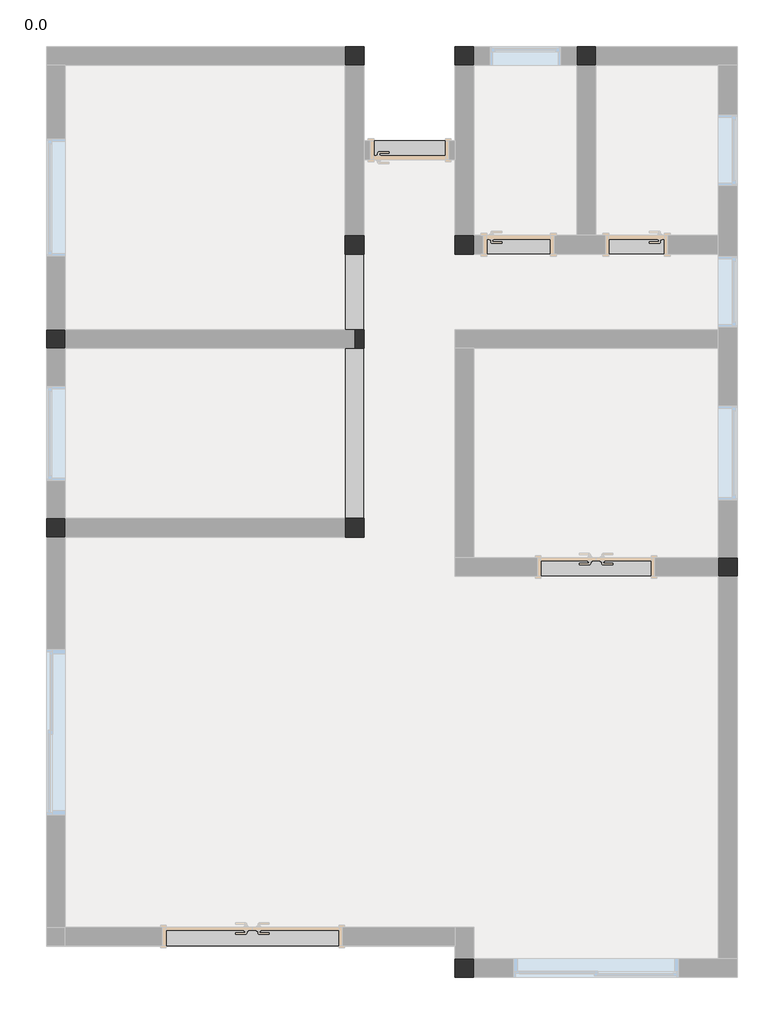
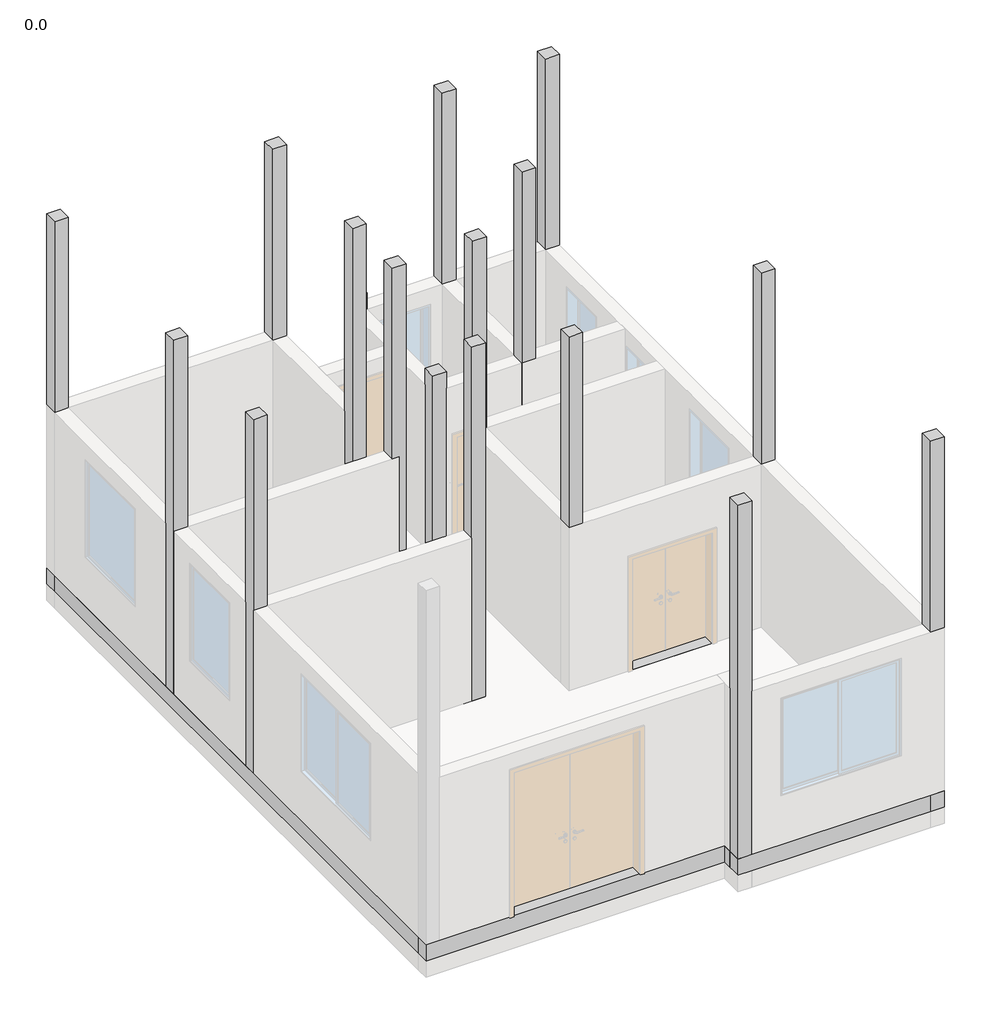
# One storey, part 2 of 2: 20 beams, 20 columns.
"""IFC4 building model written with IfcOpenShell, lengths in millimetres."""

from ifc_helpers import new_model, si_unit, origin, origin_with_axes, place, context, project, spatial, polyline, outline, extrude, faceted_brep, element, save

model = new_model("IFC4")

# Units and contexts
model_context = context("Model", 3, world=origin())
ifc_project = project(units=[si_unit("LENGTHUNIT", "METRE", prefix="MILLI")], contexts=[model_context])

# Site, building, storey
site = spatial("IfcSite", under=ifc_project)
building = spatial("IfcBuilding", under=site)
storey = spatial("IfcBuildingStorey", under=building, Name="0.0", Elevation=0.0)

# Beams
placement = place(None, origin())
element("IfcBeam", 1, ObjectType="混凝土 - 矩形梁 : DQL  240X300", at=placement, inside=storey, context=model_context, shape_type="Brep", body=[
    faceted_brep([(-13258.0662967, 1425.6780218, 0.0), (-13258.0662967, 1665.6780218, 0.0), (-13498.0662967, 1665.6780218, 0.0), (-17058.0662967, 1665.6780218, 0.0), (-17298.0662967, 1665.6780218, 0.0), (-17298.0662967, 1425.6780218, 0.0), (-17058.0662967, 1425.6780218, 0.0), (-13498.0662967, 1425.6780218, 0.0), (-13258.0662967, 1425.6780218, -300.0), (-17298.0662967, 1425.6780218, -300.0), (-17058.0662967, 1425.6780218, -300.0), (-13498.0662967, 1425.6780218, -300.0), (-13258.0662967, 1665.6780218, -300.0), (-17298.0662967, 1665.6780218, -300.0)], [[[0, 1, 2, 3, 4, 5, 6, 7]], [[8, 0, 7, 6, 5, 9, 10, 11]], [[12, 8, 11, 10, 9, 13]], [[1, 12, 13, 4, 3, 2]], [[1, 0, 8, 12]], [[5, 4, 13, 9]]]),
])
element("IfcBeam", 2, ObjectType="混凝土 - 矩形梁 : DQL  240X300", at=placement, inside=storey, context=model_context, shape_type="Brep", body=[
    faceted_brep([(-13498.0662967, 225.6780218, 0.0), (-13258.0662967, 225.6780218, 0.0), (-13258.0662967, 465.6780218, 0.0), (-13258.0662967, 1425.6780218, 0.0), (-13498.0662967, 1425.6780218, 0.0), (-13498.0662967, 225.6780218, -300.0), (-13498.0662967, 1425.6780218, -100.0), (-13498.0662967, 1425.6780218, -300.0), (-13258.0662967, 225.6780218, -300.0), (-13258.0662967, 1425.6780218, -300.0), (-13258.0662967, 465.6780218, -300.0)], [[[0, 1, 2, 3, 4]], [[5, 0, 4, 6, 7]], [[8, 5, 7, 9, 10]], [[1, 8, 10, 9, 3, 2]], [[4, 3, 9, 7, 6]], [[1, 0, 5, 8]]]),
])
element("IfcBeam", 3, ObjectType="混凝土 - 矩形梁 : DQL  240X300", at=placement, inside=storey, context=model_context, shape_type="Brep", body=[
    faceted_brep([(-11858.0662967, 225.6780218, 0.0), (-11858.0662967, 465.6780218, 0.0), (-12098.0662967, 465.6780218, 0.0), (-13258.0662967, 465.6780218, 0.0), (-13258.0662967, 225.6780218, 0.0), (-12098.0662967, 225.6780218, 0.0), (-11858.0662967, 225.6780218, -300.0), (-13258.0662967, 225.6780218, -100.0), (-13258.0662967, 225.6780218, -300.0), (-12098.0662967, 225.6780218, -300.0), (-11858.0662967, 465.6780218, -300.0), (-13258.0662967, 465.6780218, -300.0), (-12098.0662967, 465.6780218, -300.0)], [[[0, 1, 2, 3, 4, 5]], [[6, 0, 5, 4, 7, 8, 9]], [[10, 6, 9, 8, 11, 12]], [[1, 10, 12, 11, 3, 2]], [[4, 3, 11, 8, 7]], [[1, 0, 6, 10]]]),
])
element("IfcBeam", 4, ObjectType="混凝土 - 矩形梁 : DQL  240X300", at=placement, inside=storey, context=model_context, shape_type="Brep", body=[
    faceted_brep([(-11858.0662967, 1665.6780218, 0.0), (-12098.0662967, 1665.6780218, 0.0), (-12098.0662967, 1425.6780218, 0.0), (-12098.0662967, 465.6780218, 0.0), (-11858.0662967, 465.6780218, 0.0), (-11858.0662967, 1425.6780218, 0.0), (-11858.0662967, 1665.6780218, -300.0), (-11858.0662967, 465.6780218, -300.0), (-11858.0662967, 1425.6780218, -300.0), (-12098.0662967, 1665.6780218, -300.0), (-12098.0662967, 465.6780218, -300.0)], [[[0, 1, 2, 3, 4, 5]], [[6, 0, 5, 4, 7, 8]], [[9, 6, 8, 7, 10]], [[1, 9, 10, 3, 2]], [[4, 3, 10, 7]], [[1, 0, 6, 9]]]),
])
element("IfcBeam", 5, ObjectType="混凝土 - 矩形梁 : DQL  240X300", at=placement, inside=storey, context=model_context, shape_type="Brep", body=[
    faceted_brep([(-8508.0662967, 1425.6780218, 0.0), (-8508.0662967, 1665.6780218, 0.0), (-8748.0662967, 1665.6780218, 0.0), (-10308.0662967, 1665.6780218, 0.0), (-10548.0662967, 1665.6780218, 0.0), (-11858.0662967, 1665.6780218, 0.0), (-11858.0662967, 1425.6780218, 0.0), (-10548.0662967, 1425.6780218, 0.0), (-10308.0662967, 1425.6780218, 0.0), (-8748.0662967, 1425.6780218, 0.0), (-8508.0662967, 1425.6780218, -300.0), (-11858.0662967, 1425.6780218, -30.0), (-11858.0662967, 1425.6780218, -130.0), (-11858.0662967, 1425.6780218, -300.0), (-10548.0662967, 1425.6780218, -300.0), (-10308.0662967, 1425.6780218, -300.0), (-8748.0662967, 1425.6780218, -300.0), (-8508.0662967, 1665.6780218, -300.0), (-11858.0662967, 1665.6780218, -300.0)], [[[0, 1, 2, 3, 4, 5, 6, 7, 8, 9]], [[10, 0, 9, 8, 7, 6, 11, 12, 13, 14, 15, 16]], [[17, 10, 16, 15, 14, 13, 18]], [[1, 17, 18, 5, 4, 3, 2]], [[6, 5, 18, 13, 12, 11]], [[1, 0, 10, 17]]]),
])
element("IfcBeam", 6, ObjectType="混凝土 - 矩形梁 : DQL  240X300", at=placement, inside=storey, context=model_context, shape_type="Brep", body=[
    faceted_brep([(-8748.0662967, -10174.3219782, 0.0), (-8508.0662967, -10174.3219782, 0.0), (-8508.0662967, -9934.3219782, 0.0), (-8508.0662967, -5074.3219782, 0.0), (-8508.0662967, -4834.3219782, 0.0), (-8508.0662967, 1425.6780218, 0.0), (-8748.0662967, 1425.6780218, 0.0), (-8748.0662967, -734.3219782, 0.0), (-8748.0662967, -974.3219782, 0.0), (-8748.0662967, -1934.3219782, 0.0), (-8748.0662967, -2174.3219782, 0.0), (-8748.0662967, -4834.3219782, 0.0), (-8748.0662967, -5074.3219782, 0.0), (-8748.0662967, -9934.3219782, 0.0), (-8748.0662967, -10174.3219782, -300.0), (-8748.0662967, 1425.6780218, -30.0), (-8748.0662967, 1425.6780218, -130.0), (-8748.0662967, 1425.6780218, -300.0), (-8748.0662967, -734.3219782, -300.0), (-8748.0662967, -974.3219782, -300.0), (-8748.0662967, -1934.3219782, -300.0), (-8748.0662967, -2174.3219782, -300.0), (-8748.0662967, -4834.3219782, -300.0), (-8748.0662967, -5074.3219782, -300.0), (-8748.0662967, -9934.3219782, -300.0), (-8508.0662967, -10174.3219782, -300.0), (-8508.0662967, 1425.6780218, -300.0)], [[[0, 1, 2, 3, 4, 5, 6, 7, 8, 9, 10, 11, 12, 13]], [[14, 0, 13, 12, 11, 10, 9, 8, 7, 6, 15, 16, 17, 18, 19, 20, 21, 22, 23, 24]], [[25, 14, 24, 23, 22, 21, 20, 19, 18, 17, 26]], [[1, 25, 26, 5, 4, 3, 2]], [[6, 5, 26, 17, 16, 15]], [[1, 0, 14, 25]]]),
])
element("IfcBeam", 7, ObjectType="混凝土 - 矩形梁 : DQL  240X300", at=placement, inside=storey, context=model_context, shape_type="Brep", body=[
    faceted_brep([(-12098.0662967, -9934.3219782, 0.0), (-12098.0662967, -10174.3219782, 0.0), (-11858.0662967, -10174.3219782, 0.0), (-8748.0662967, -10174.3219782, 0.0), (-8748.0662967, -9934.3219782, 0.0), (-11858.0662967, -9934.3219782, 0.0), (-12098.0662967, -9934.3219782, -300.0), (-8748.0662967, -9934.3219782, -100.0), (-8748.0662967, -9934.3219782, -300.0), (-11858.0662967, -9934.3219782, -300.0), (-12098.0662967, -10174.3219782, -300.0), (-8748.0662967, -10174.3219782, -300.0)], [[[0, 1, 2, 3, 4, 5]], [[6, 0, 5, 4, 7, 8, 9]], [[10, 6, 9, 8, 11]], [[1, 10, 11, 3, 2]], [[4, 3, 11, 8, 7]], [[1, 0, 6, 10]]]),
])
element("IfcBeam", 8, ObjectType="混凝土 - 矩形梁 : DQL  240X300", at=placement, inside=storey, context=model_context, shape_type="Brep", body=[
    faceted_brep([(-12098.0662967, -9934.3219782, 0.0), (-11858.0662967, -9934.3219782, 0.0), (-11858.0662967, -9534.3219782, 0.0), (-12098.0662967, -9534.3219782, 0.0), (-12098.0662967, -9774.3219782, 0.0), (-11858.0662967, -9934.3219782, -100.0), (-11858.0662967, -9934.3219782, -300.0), (-11858.0662967, -9534.3219782, -300.0), (-11858.0662967, -9534.3219782, -100.0), (-12098.0662967, -9934.3219782, -300.0), (-12098.0662967, -9774.3219782, -300.0), (-12098.0662967, -9534.3219782, -300.0), (-12098.0662967, -9534.3219782, -100.0)], [[[0, 1, 2, 3, 4]], [[2, 1, 5, 6, 7, 8]], [[6, 9, 10, 11, 7]], [[9, 0, 4, 3, 12, 11, 10]], [[1, 0, 9, 6, 5]], [[3, 2, 8, 7, 11, 12]]]),
])
element("IfcBeam", 9, ObjectType="混凝土 - 矩形梁 : DQL  240X300", at=placement, inside=storey, context=model_context, shape_type="Brep", body=[
    faceted_brep([(-12098.0662967, -9774.3219782, 0.0), (-12098.0662967, -9534.3219782, 0.0), (-17058.0662967, -9534.3219782, 0.0), (-17298.0662967, -9534.3219782, 0.0), (-17298.0662967, -9774.3219782, 0.0), (-17058.0662967, -9774.3219782, 0.0), (-17298.0662967, -9534.3219782, -300.0), (-12098.0662967, -9534.3219782, -100.0), (-12098.0662967, -9534.3219782, -300.0), (-17058.0662967, -9534.3219782, -300.0), (-12098.0662967, -9774.3219782, -300.0), (-17298.0662967, -9774.3219782, -300.0)], [[[0, 1, 2, 3, 4, 5]], [[6, 3, 2, 1, 7, 8, 9]], [[8, 10, 11, 6, 9]], [[10, 0, 5, 4, 11]], [[1, 0, 10, 8, 7]], [[4, 3, 6, 11]]]),
])
element("IfcBeam", 10, ObjectType="混凝土 - 矩形梁 : DQL  240X300", at=placement, inside=storey, context=model_context, shape_type="Brep", body=[
    faceted_brep([(-17298.0662967, -9534.3219782, 0.0), (-17058.0662967, -9534.3219782, 0.0), (-17058.0662967, -4574.3219782, 0.0), (-17058.0662967, -4334.3219782, 0.0), (-17058.0662967, -2174.3219782, 0.0), (-17058.0662967, -1934.3219782, 0.0), (-17058.0662967, 1425.6780218, 0.0), (-17298.0662967, 1425.6780218, 0.0), (-17298.0662967, -1934.3219782, 0.0), (-17298.0662967, -2174.3219782, 0.0), (-17298.0662967, -4334.3219782, 0.0), (-17298.0662967, -4574.3219782, 0.0), (-17058.0662967, -9534.3219782, -100.0), (-17058.0662967, -9534.3219782, -300.0), (-17058.0662967, -4574.3219782, -300.0), (-17058.0662967, -4334.3219782, -300.0), (-17058.0662967, -2174.3219782, -300.0), (-17058.0662967, -1934.3219782, -300.0), (-17058.0662967, 1425.6780218, -300.0), (-17058.0662967, 1425.6780218, -100.0), (-17298.0662967, -9534.3219782, -300.0), (-17298.0662967, 1425.6780218, -300.0)], [[[0, 1, 2, 3, 4, 5, 6, 7, 8, 9, 10, 11]], [[1, 12, 13, 14, 15, 16, 17, 18, 19, 6, 5, 4, 3, 2]], [[13, 20, 21, 18, 17, 16, 15, 14]], [[20, 0, 11, 10, 9, 8, 7, 21]], [[1, 0, 20, 13, 12]], [[7, 6, 19, 18, 21]]]),
])
element("IfcBeam", 11, ObjectType="混凝土 - 矩形梁 : DQL  240X300", at=placement, inside=storey, context=model_context, shape_type="Brep", body=[
    faceted_brep([(-13258.0662967, 225.6780218, 0.0), (-13498.0662967, 225.6780218, 0.0), (-13498.0662967, -734.3219782, 0.0), (-13498.0662967, -974.3219782, 0.0), (-13498.0662967, -1934.3219782, 0.0), (-13498.0662967, -2174.3219782, 0.0), (-13258.0662967, -2174.3219782, 0.0), (-13258.0662967, -1934.3219782, 0.0), (-13258.0662967, -974.3219782, 0.0), (-13258.0662967, -734.3219782, 0.0), (-13498.0662967, 225.6780218, -300.0), (-13498.0662967, -1934.3219782, -300.0), (-13498.0662967, -2174.3219782, -300.0), (-13258.0662967, 225.6780218, -300.0), (-13258.0662967, -2174.3219782, -300.0), (-13258.0662967, -2174.3219782, -100.0), (-13258.0662967, 225.6780218, -100.0)], [[[0, 1, 2, 3, 4, 5, 6, 7, 8, 9]], [[1, 10, 11, 12, 5, 4, 3, 2]], [[10, 13, 14, 12, 11]], [[0, 9, 8, 7, 6, 15, 14, 13, 16]], [[1, 0, 16, 13, 10]], [[6, 5, 12, 14, 15]]]),
])
element("IfcBeam", 12, ObjectType="混凝土 - 矩形梁 : DQL  240X300", at=placement, inside=storey, context=model_context, shape_type="Brep", body=[
    faceted_brep([(-13498.0662967, -2174.3219782, 0.0), (-13498.0662967, -1934.3219782, 0.0), (-17058.0662967, -1934.3219782, 0.0), (-17058.0662967, -2174.3219782, 0.0), (-13498.0662967, -1934.3219782, -100.0), (-13498.0662967, -1934.3219782, -300.0), (-17058.0662967, -1934.3219782, -300.0), (-17058.0662967, -1934.3219782, -100.0), (-13498.0662967, -2174.3219782, -300.0), (-17058.0662967, -2174.3219782, -300.0), (-13498.0662967, -2174.3219782, -100.0), (-17058.0662967, -2174.3219782, -100.0)], [[[0, 1, 2, 3]], [[1, 4, 5, 6, 7, 2]], [[5, 8, 9, 6]], [[8, 10, 0, 3, 11, 9]], [[1, 0, 10, 8, 5, 4]], [[3, 2, 7, 6, 9, 11]]]),
])
element("IfcBeam", 13, ObjectType="混凝土 - 矩形梁 : DQL  240X300", at=placement, inside=storey, context=model_context, shape_type="Brep", body=[
    faceted_brep([(-17058.0662967, -4334.3219782, 0.0), (-17058.0662967, -4574.3219782, 0.0), (-13498.0662967, -4574.3219782, 0.0), (-13258.0662967, -4574.3219782, 0.0), (-13258.0662967, -4334.3219782, 0.0), (-13498.0662967, -4334.3219782, 0.0), (-17058.0662967, -4334.3219782, -300.0), (-17058.0662967, -4334.3219782, -100.0), (-13258.0662967, -4334.3219782, -100.0), (-13258.0662967, -4334.3219782, -300.0), (-13498.0662967, -4334.3219782, -300.0), (-17058.0662967, -4574.3219782, -300.0), (-13258.0662967, -4574.3219782, -300.0), (-17058.0662967, -4574.3219782, -100.0), (-13258.0662967, -4574.3219782, -100.0)], [[[0, 1, 2, 3, 4, 5]], [[6, 7, 0, 5, 4, 8, 9, 10]], [[11, 6, 10, 9, 12]], [[3, 2, 1, 13, 11, 12, 14]], [[1, 0, 7, 6, 11, 13]], [[4, 3, 14, 12, 9, 8]]]),
])
element("IfcBeam", 14, ObjectType="混凝土 - 矩形梁 : DQL  240X300", at=placement, inside=storey, context=model_context, shape_type="Brep", body=[
    faceted_brep([(-11858.0662967, 225.6780218, 0.0), (-12098.0662967, 225.6780218, 0.0), (-12098.0662967, -734.3219782, 0.0), (-12098.0662967, -974.3219782, 0.0), (-11858.0662967, -974.3219782, 0.0), (-11858.0662967, -734.3219782, 0.0), (-12098.0662967, 225.6780218, -100.0), (-12098.0662967, 225.6780218, -300.0), (-12098.0662967, -974.3219782, -300.0), (-12098.0662967, -974.3219782, -100.0), (-11858.0662967, 225.6780218, -300.0), (-11858.0662967, -734.3219782, -300.0), (-11858.0662967, -974.3219782, -300.0), (-11858.0662967, -974.3219782, -100.0)], [[[0, 1, 2, 3, 4, 5]], [[3, 2, 1, 6, 7, 8, 9]], [[7, 10, 11, 12, 8]], [[10, 0, 5, 4, 13, 12, 11]], [[1, 0, 10, 7, 6]], [[4, 3, 9, 8, 12, 13]]]),
])
element("IfcBeam", 15, ObjectType="混凝土 - 矩形梁 : DQL  240X300", at=placement, inside=storey, context=model_context, shape_type="Brep", body=[
    faceted_brep([(-12098.0662967, -4834.3219782, 0.0), (-12098.0662967, -5074.3219782, 0.0), (-11858.0662967, -5074.3219782, 0.0), (-8748.0662967, -5074.3219782, 0.0), (-8748.0662967, -4834.3219782, 0.0), (-11858.0662967, -4834.3219782, 0.0), (-12098.0662967, -5074.3219782, -100.0), (-12098.0662967, -5074.3219782, -300.0), (-8748.0662967, -5074.3219782, -300.0), (-8748.0662967, -5074.3219782, -100.0), (-12098.0662967, -4834.3219782, -300.0), (-11858.0662967, -4834.3219782, -300.0), (-8748.0662967, -4834.3219782, -300.0), (-8748.0662967, -4834.3219782, -30.0), (-8748.0662967, -4834.3219782, -130.0), (-12098.0662967, -4834.3219782, -100.0)], [[[0, 1, 2, 3, 4, 5]], [[3, 2, 1, 6, 7, 8, 9]], [[7, 10, 11, 12, 8]], [[4, 13, 14, 12, 11, 10, 15, 0, 5]], [[1, 0, 15, 10, 7, 6]], [[4, 3, 9, 8, 12, 14, 13]]]),
])
element("IfcBeam", 16, ObjectType="混凝土 - 矩形梁 : DQL  240X300", at=placement, inside=storey, context=model_context, shape_type="Brep", body=[
    faceted_brep([(-8748.0662967, -2174.3219782, 0.0), (-8748.0662967, -1934.3219782, 0.0), (-11858.0662967, -1934.3219782, 0.0), (-12098.0662967, -1934.3219782, 0.0), (-12098.0662967, -2174.3219782, 0.0), (-11858.0662967, -2174.3219782, 0.0), (-8748.0662967, -1934.3219782, -100.0), (-8748.0662967, -1934.3219782, -300.0), (-12098.0662967, -1934.3219782, -300.0), (-12098.0662967, -1934.3219782, -100.0), (-8748.0662967, -2174.3219782, -300.0), (-11858.0662967, -2174.3219782, -300.0), (-12098.0662967, -2174.3219782, -300.0), (-8748.0662967, -2174.3219782, -130.0), (-8748.0662967, -2174.3219782, -30.0), (-12098.0662967, -2174.3219782, -100.0)], [[[0, 1, 2, 3, 4, 5]], [[3, 2, 1, 6, 7, 8, 9]], [[7, 10, 11, 12, 8]], [[10, 13, 14, 0, 5, 4, 15, 12, 11]], [[1, 0, 14, 13, 10, 7, 6]], [[4, 3, 9, 8, 12, 15]]]),
])
element("IfcBeam", 17, ObjectType="混凝土 - 矩形梁 : DQL  240X300", at=placement, inside=storey, context=model_context, shape_type="Brep", body=[
    faceted_brep([(-8748.0662967, -974.3219782, 0.0), (-8748.0662967, -734.3219782, 0.0), (-10308.0662967, -734.3219782, 0.0), (-10548.0662967, -734.3219782, 0.0), (-11858.0662967, -734.3219782, 0.0), (-11858.0662967, -974.3219782, 0.0), (-10548.0662967, -974.3219782, 0.0), (-10308.0662967, -974.3219782, 0.0), (-8748.0662967, -734.3219782, -130.0), (-8748.0662967, -734.3219782, -300.0), (-10308.0662967, -734.3219782, -300.0), (-10548.0662967, -734.3219782, -300.0), (-11858.0662967, -734.3219782, -300.0), (-11858.0662967, -734.3219782, -130.0), (-11858.0662967, -734.3219782, -30.0), (-8748.0662967, -734.3219782, -30.0), (-8748.0662967, -974.3219782, -300.0), (-11858.0662967, -974.3219782, -300.0), (-11858.0662967, -974.3219782, -100.0), (-8748.0662967, -974.3219782, -100.0)], [[[0, 1, 2, 3, 4, 5, 6, 7]], [[8, 9, 10, 11, 12, 13, 14, 4, 3, 2, 1, 15]], [[9, 16, 17, 12, 11, 10]], [[0, 7, 6, 5, 18, 17, 16, 19]], [[1, 0, 19, 16, 9, 8, 15]], [[5, 4, 14, 13, 12, 17, 18]]]),
])
element("IfcBeam", 18, ObjectType="混凝土 - 矩形梁 : DQL  240X300", at=placement, inside=storey, context=model_context, shape_type="Brep", body=[
    faceted_brep([(-10308.0662967, 1425.6780218, 0.0), (-10548.0662967, 1425.6780218, 0.0), (-10548.0662967, -734.3219782, 0.0), (-10308.0662967, -734.3219782, 0.0), (-10548.0662967, 1425.6780218, -30.0), (-10548.0662967, 1425.6780218, -130.0), (-10548.0662967, 1425.6780218, -300.0), (-10548.0662967, -734.3219782, -300.0), (-10548.0662967, -734.3219782, -130.0), (-10548.0662967, -734.3219782, -30.0), (-10308.0662967, 1425.6780218, -300.0), (-10308.0662967, -734.3219782, -300.0), (-10308.0662967, -734.3219782, -30.0), (-10308.0662967, -734.3219782, -130.0), (-10308.0662967, 1425.6780218, -130.0), (-10308.0662967, 1425.6780218, -30.0)], [[[0, 1, 2, 3]], [[2, 1, 4, 5, 6, 7, 8, 9]], [[6, 10, 11, 7]], [[0, 3, 12, 13, 11, 10, 14, 15]], [[1, 0, 15, 14, 10, 6, 5, 4]], [[3, 2, 9, 8, 7, 11, 13, 12]]]),
])
element("IfcBeam", 19, ObjectType="混凝土 - 矩形梁 : DL1(2)  240X300", at=placement, inside=storey, context=model_context, shape_type="Brep", body=[
    faceted_brep([(-13258.0662967, -2174.3219782, 0.0), (-13498.0662967, -2174.3219782, 0.0), (-13498.0662967, -4334.3219782, 0.0), (-13258.0662967, -4334.3219782, 0.0), (-13498.0662967, -2174.3219782, -100.0), (-13498.0662967, -2174.3219782, -300.0), (-13498.0662967, -4334.3219782, -300.0), (-13498.0662967, -4334.3219782, -100.0), (-13258.0662967, -2174.3219782, -300.0), (-13258.0662967, -4334.3219782, -300.0), (-13258.0662967, -4334.3219782, -100.0), (-13258.0662967, -2174.3219782, -100.0)], [[[0, 1, 2, 3]], [[1, 4, 5, 6, 7, 2]], [[5, 8, 9, 6]], [[0, 3, 10, 9, 8, 11]], [[1, 0, 11, 8, 5, 4]], [[3, 2, 7, 6, 9, 10]]]),
])
element("IfcBeam", 20, ObjectType="混凝土 - 矩形梁 : DQL  240X300", at=placement, inside=storey, context=model_context, shape_type="Brep", body=[
    faceted_brep([(-12098.0662967, -4834.3219782, 0.0), (-11858.0662967, -4834.3219782, 0.0), (-11858.0662967, -2174.3219782, 0.0), (-12098.0662967, -2174.3219782, 0.0), (-12098.0662967, -4834.3219782, -300.0), (-12098.0662967, -2174.3219782, -300.0), (-11858.0662967, -4834.3219782, -300.0), (-11858.0662967, -2174.3219782, -300.0), (-11858.0662967, -4834.3219782, -30.0), (-11858.0662967, -4834.3219782, -130.0), (-11858.0662967, -2174.3219782, -130.0), (-11858.0662967, -2174.3219782, -30.0)], [[[0, 1, 2, 3]], [[4, 0, 3, 5]], [[6, 4, 5, 7]], [[1, 8, 9, 6, 7, 10, 11, 2]], [[1, 0, 4, 6, 9, 8]], [[3, 2, 11, 10, 7, 5]]]),
])

# Columns
element("IfcColumn", 21, ObjectType="混凝土 - 矩形 - 柱 : GZ2 240X240", at=placement, inside=storey, context=model_context, shape_type="Brep", body=[
    faceted_brep([(-17058.0662967, 1665.6780218, 0.0), (-17058.0662967, 1425.6780218, 0.0), (-17298.0662967, 1425.6780218, 0.0), (-17298.0662967, 1665.6780218, 0.0), (-17058.0662967, 1665.6780218, 6510.0), (-17058.0662967, 1425.6780218, 6510.0), (-17058.0662967, 1425.6780218, 6300.0), (-17058.0662967, 1425.6780218, 3300.0), (-17058.0662967, 1665.6780218, 3300.0), (-17058.0662967, 1665.6780218, 6300.0), (-17298.0662967, 1425.6780218, 6510.0), (-17298.0662967, 1425.6780218, 6300.0), (-17298.0662967, 1425.6780218, 3300.0), (-17298.0662967, 1665.6780218, 6510.0)], [[[0, 1, 2, 3]], [[4, 5, 6, 7, 1, 0, 8, 9]], [[5, 10, 11, 12, 2, 1, 7, 6]], [[10, 13, 3, 2, 12, 11]], [[13, 4, 9, 8, 0, 3]], [[4, 13, 10, 5]]]),
])
element("IfcColumn", 22, ObjectType="混凝土 - 矩形 - 柱 : GZ2 240X240", at=placement, inside=storey, context=model_context, shape_type="Brep", body=[
    faceted_brep([(-13258.0662967, -734.3219782, 0.0), (-13258.0662967, -974.3219782, 0.0), (-13498.0662967, -974.3219782, 0.0), (-13498.0662967, -734.3219782, 0.0), (-13258.0662967, -734.3219782, 6510.0), (-13258.0662967, -974.3219782, 6510.0), (-13258.0662967, -974.3219782, 6300.0), (-13258.0662967, -734.3219782, 6300.0), (-13498.0662967, -974.3219782, 6510.0), (-13498.0662967, -974.3219782, 6300.0), (-13498.0662967, -734.3219782, 6510.0), (-13498.0662967, -734.3219782, 6300.0)], [[[0, 1, 2, 3]], [[4, 5, 6, 1, 0, 7]], [[5, 8, 9, 2, 1, 6]], [[8, 10, 11, 3, 2, 9]], [[10, 4, 7, 0, 3, 11]], [[4, 10, 8, 5]]]),
])
element("IfcColumn", 23, ObjectType="混凝土 - 矩形 - 柱 : GZ2 240X240", at=placement, inside=storey, context=model_context, shape_type="Brep", body=[
    faceted_brep([(-11858.0662967, -734.3219782, 0.0), (-11858.0662967, -974.3219782, 0.0), (-12098.0662967, -974.3219782, 0.0), (-12098.0662967, -734.3219782, 0.0), (-11858.0662967, -734.3219782, 3300.0), (-11858.0662967, -974.3219782, 3300.0), (-11858.0662967, -974.3219782, 3000.0), (-11858.0662967, -734.3219782, 3000.0), (-12098.0662967, -974.3219782, 3300.0), (-12098.0662967, -734.3219782, 3300.0), (-12098.0662967, -734.3219782, 3000.0)], [[[0, 1, 2, 3]], [[4, 5, 6, 1, 0, 7]], [[5, 8, 2, 1, 6]], [[8, 9, 10, 3, 2]], [[9, 4, 7, 0, 3, 10]], [[4, 9, 8, 5]]]),
])
element("IfcColumn", 24, ObjectType="混凝土 - 矩形 - 柱 : GZ2 240X240", at=placement, inside=storey, context=model_context, shape_type="Brep", body=[
    faceted_brep([(-10308.0662967, -734.3219782, 0.0), (-10308.0662967, -974.3219782, 0.0), (-10548.0662967, -974.3219782, 0.0), (-10548.0662967, -734.3219782, 0.0), (-10308.0662967, -734.3219782, 6510.0), (-10308.0662967, -974.3219782, 6510.0), (-10308.0662967, -974.3219782, 6300.0), (-10308.0662967, -734.3219782, 3000.0), (-10308.0662967, -734.3219782, 6300.0), (-10548.0662967, -974.3219782, 6510.0), (-10548.0662967, -974.3219782, 6300.0), (-10548.0662967, -734.3219782, 6510.0), (-10548.0662967, -734.3219782, 6300.0), (-10548.0662967, -734.3219782, 3000.0)], [[[0, 1, 2, 3]], [[4, 5, 6, 1, 0, 7, 8]], [[5, 9, 10, 2, 1, 6]], [[9, 11, 12, 13, 3, 2, 10]], [[11, 4, 8, 7, 0, 3, 13, 12]], [[4, 11, 9, 5]]]),
])
element("IfcColumn", 25, ObjectType="混凝土 - 矩形 - 柱 : GZ2 240X240", at=placement, inside=storey, context=model_context, shape_type="SweptSolid", body=[
    extrude(outline(polyline([(-8508.0662967, 1665.6780218), (-8508.0662967, 1425.6780218), (-8748.0662967, 1425.6780218), (-8748.0662967, 1665.6780218), (-8508.0662967, 1665.6780218)])), origin_with_axes(), (0.0, 0.0, 1.0), 6510.0),
])
element("IfcColumn", 26, ObjectType="混凝土 - 矩形 - 柱 : GZ2 240X240", at=placement, inside=storey, context=model_context, shape_type="Brep", body=[
    faceted_brep([(-13258.0662967, -1934.3219782, 0.0), (-13258.0662967, -2174.3219782, 0.0), (-13498.0662967, -2174.3219782, 0.0), (-13498.0662967, -1934.3219782, 0.0), (-13258.0662967, -1934.3219782, 6510.0), (-13258.0662967, -2174.3219782, 6510.0), (-13258.0662967, -2174.3219782, 6300.0), (-13258.0662967, -1934.3219782, 6300.0), (-13498.0662967, -2174.3219782, 6510.0), (-13498.0662967, -2174.3219782, 6300.0), (-13498.0662967, -1934.3219782, 6510.0), (-13498.0662967, -1934.3219782, 6300.0)], [[[0, 1, 2, 3]], [[4, 5, 6, 1, 0, 7]], [[5, 8, 9, 2, 1, 6]], [[8, 10, 11, 3, 2, 9]], [[10, 4, 7, 0, 3, 11]], [[4, 10, 8, 5]]]),
])
element("IfcColumn", 27, ObjectType="混凝土 - 矩形 - 柱 : GZ2 240X240", at=placement, inside=storey, context=model_context, shape_type="SweptSolid", body=[
    extrude(outline(polyline([(-11858.0662967, -1934.3219782), (-11858.0662967, -2174.3219782), (-12098.0662967, -2174.3219782), (-12098.0662967, -1934.3219782), (-11858.0662967, -1934.3219782)])), origin_with_axes(), (0.0, 0.0, 1.0), 6510.0),
])
element("IfcColumn", 28, ObjectType="混凝土 - 矩形 - 柱 : GZ2 240X240", at=placement, inside=storey, context=model_context, shape_type="Brep", body=[
    faceted_brep([(-17058.0662967, -1934.3219782, 0.0), (-17058.0662967, -2174.3219782, 0.0), (-17298.0662967, -2174.3219782, 0.0), (-17298.0662967, -1934.3219782, 0.0), (-17058.0662967, -1934.3219782, 6510.0), (-17058.0662967, -2174.3219782, 6510.0), (-17058.0662967, -2174.3219782, 6300.0), (-17058.0662967, -2174.3219782, 3300.0), (-17058.0662967, -2174.3219782, 3000.0), (-17058.0662967, -1934.3219782, 3000.0), (-17058.0662967, -1934.3219782, 3300.0), (-17058.0662967, -1934.3219782, 6300.0), (-17298.0662967, -2174.3219782, 6510.0), (-17298.0662967, -2174.3219782, 6300.0), (-17298.0662967, -2174.3219782, 3300.0), (-17298.0662967, -2174.3219782, 3000.0), (-17298.0662967, -1934.3219782, 6510.0), (-17298.0662967, -1934.3219782, 6300.0), (-17298.0662967, -1934.3219782, 3300.0), (-17298.0662967, -1934.3219782, 3000.0)], [[[0, 1, 2, 3]], [[4, 5, 6, 7, 8, 1, 0, 9, 10, 11]], [[5, 12, 13, 14, 15, 2, 1, 8, 7, 6]], [[12, 16, 17, 18, 19, 3, 2, 15, 14, 13]], [[16, 4, 11, 10, 9, 0, 3, 19, 18, 17]], [[4, 16, 12, 5]]]),
])
element("IfcColumn", 29, ObjectType="混凝土 - 矩形 - 柱 : GZ2 240X240", at=placement, inside=storey, context=model_context, shape_type="Brep", body=[
    faceted_brep([(-13258.0662967, -4334.3219782, 0.0), (-13258.0662967, -4574.3219782, 0.0), (-13498.0662967, -4574.3219782, 0.0), (-13498.0662967, -4334.3219782, 0.0), (-13258.0662967, -4334.3219782, 6510.0), (-13258.0662967, -4574.3219782, 6510.0), (-13498.0662967, -4574.3219782, 6510.0), (-13498.0662967, -4574.3219782, 3000.0), (-13498.0662967, -4334.3219782, 6510.0), (-13498.0662967, -4334.3219782, 3000.0)], [[[0, 1, 2, 3]], [[4, 5, 1, 0]], [[5, 6, 7, 2, 1]], [[6, 8, 9, 3, 2, 7]], [[8, 4, 0, 3, 9]], [[4, 8, 6, 5]]]),
])
element("IfcColumn", 30, ObjectType="混凝土 - 矩形 - 柱 : GZ2 240X240", at=placement, inside=storey, context=model_context, shape_type="Brep", body=[
    faceted_brep([(-17058.0662967, -4334.3219782, 0.0), (-17058.0662967, -4574.3219782, 0.0), (-17298.0662967, -4574.3219782, 0.0), (-17298.0662967, -4334.3219782, 0.0), (-17058.0662967, -4334.3219782, 6510.0), (-17058.0662967, -4574.3219782, 6510.0), (-17058.0662967, -4574.3219782, 6300.0), (-17058.0662967, -4574.3219782, 3300.0), (-17058.0662967, -4574.3219782, 3000.0), (-17058.0662967, -4334.3219782, 3000.0), (-17058.0662967, -4334.3219782, 3300.0), (-17058.0662967, -4334.3219782, 6300.0), (-17298.0662967, -4574.3219782, 6510.0), (-17298.0662967, -4574.3219782, 6300.0), (-17298.0662967, -4574.3219782, 3300.0), (-17298.0662967, -4574.3219782, 3000.0), (-17298.0662967, -4334.3219782, 6510.0), (-17298.0662967, -4334.3219782, 6300.0), (-17298.0662967, -4334.3219782, 3300.0), (-17298.0662967, -4334.3219782, 3000.0)], [[[0, 1, 2, 3]], [[4, 5, 6, 7, 8, 1, 0, 9, 10, 11]], [[5, 12, 13, 14, 15, 2, 1, 8, 7, 6]], [[12, 16, 17, 18, 19, 3, 2, 15, 14, 13]], [[16, 4, 11, 10, 9, 0, 3, 19, 18, 17]], [[4, 16, 12, 5]]]),
])
element("IfcColumn", 31, ObjectType="混凝土 - 矩形 - 柱 : GZ2 240X240", at=placement, inside=storey, context=model_context, shape_type="Brep", body=[
    faceted_brep([(-13258.0662967, 1665.6780218, 0.0), (-13258.0662967, 1425.6780218, 0.0), (-13498.0662967, 1425.6780218, 0.0), (-13498.0662967, 1665.6780218, 0.0), (-13258.0662967, 1665.6780218, 6510.0), (-13258.0662967, 1425.6780218, 6510.0), (-13258.0662967, 1425.6780218, 6300.0), (-13258.0662967, 1425.6780218, 3300.0), (-13258.0662967, 1665.6780218, 3300.0), (-13258.0662967, 1665.6780218, 6300.0), (-13498.0662967, 1425.6780218, 6510.0), (-13498.0662967, 1425.6780218, 6300.0), (-13498.0662967, 1425.6780218, 3300.0), (-13498.0662967, 1425.6780218, 3000.0), (-13498.0662967, 1665.6780218, 6510.0), (-13498.0662967, 1665.6780218, 6300.0), (-13498.0662967, 1665.6780218, 3300.0), (-13498.0662967, 1665.6780218, 3000.0)], [[[0, 1, 2, 3]], [[4, 5, 6, 7, 1, 0, 8, 9]], [[5, 10, 11, 12, 13, 2, 1, 7, 6]], [[10, 14, 15, 16, 17, 3, 2, 13, 12, 11]], [[14, 4, 9, 8, 0, 3, 17, 16, 15]], [[4, 14, 10, 5]]]),
])
element("IfcColumn", 32, ObjectType="混凝土 - 矩形 - 柱 : GZ2 240X240", at=placement, inside=storey, context=model_context, shape_type="Brep", body=[
    faceted_brep([(-11858.0662967, 1665.6780218, 0.0), (-11858.0662967, 1425.6780218, 0.0), (-12098.0662967, 1425.6780218, 0.0), (-12098.0662967, 1665.6780218, 0.0), (-11858.0662967, 1665.6780218, 3300.0), (-11858.0662967, 1425.6780218, 3300.0), (-11858.0662967, 1425.6780218, 3000.0), (-12098.0662967, 1425.6780218, 3300.0), (-12098.0662967, 1425.6780218, 3000.0), (-12098.0662967, 1665.6780218, 3300.0)], [[[0, 1, 2, 3]], [[4, 5, 6, 1, 0]], [[5, 7, 8, 2, 1, 6]], [[7, 9, 3, 2, 8]], [[9, 4, 0, 3]], [[4, 9, 7, 5]]]),
])
element("IfcColumn", 33, ObjectType="混凝土 - 矩形 - 柱 : GZ2 240X240", at=placement, inside=storey, context=model_context, shape_type="Brep", body=[
    faceted_brep([(-10308.0662967, 1665.6780218, 0.0), (-10308.0662967, 1425.6780218, 0.0), (-10548.0662967, 1425.6780218, 0.0), (-10548.0662967, 1665.6780218, 0.0), (-10308.0662967, 1665.6780218, 6510.0), (-10308.0662967, 1425.6780218, 6510.0), (-10308.0662967, 1425.6780218, 6300.0), (-10308.0662967, 1665.6780218, 6300.0), (-10548.0662967, 1425.6780218, 6510.0), (-10548.0662967, 1425.6780218, 6300.0), (-10548.0662967, 1665.6780218, 6510.0), (-10548.0662967, 1665.6780218, 6300.0)], [[[0, 1, 2, 3]], [[4, 5, 6, 1, 0, 7]], [[5, 8, 9, 2, 1, 6]], [[8, 10, 11, 3, 2, 9]], [[10, 4, 7, 0, 3, 11]], [[4, 10, 8, 5]]]),
])
element("IfcColumn", 34, ObjectType="混凝土 - 矩形 - 柱 : GZ2 240X240", at=placement, inside=storey, context=model_context, shape_type="Brep", body=[
    faceted_brep([(-8508.0662967, -4834.3219782, 0.0), (-8508.0662967, -5074.3219782, 0.0), (-8748.0662967, -5074.3219782, 0.0), (-8748.0662967, -4834.3219782, 0.0), (-8508.0662967, -4834.3219782, 6510.0), (-8508.0662967, -5074.3219782, 6510.0), (-8508.0662967, -5074.3219782, 6300.0), (-8508.0662967, -5074.3219782, 3300.0), (-8508.0662967, -5074.3219782, 3000.0), (-8508.0662967, -4834.3219782, 3000.0), (-8508.0662967, -4834.3219782, 3300.0), (-8508.0662967, -4834.3219782, 6300.0), (-8748.0662967, -5074.3219782, 6510.0), (-8748.0662967, -5074.3219782, 6300.0), (-8748.0662967, -5074.3219782, 3300.0), (-8748.0662967, -5074.3219782, 3000.0), (-8748.0662967, -4834.3219782, 6510.0), (-8748.0662967, -4834.3219782, 6300.0), (-8748.0662967, -4834.3219782, 3300.0), (-8748.0662967, -4834.3219782, 3000.0)], [[[0, 1, 2, 3]], [[4, 5, 6, 7, 8, 1, 0, 9, 10, 11]], [[5, 12, 13, 14, 15, 2, 1, 8, 7, 6]], [[12, 16, 17, 18, 19, 3, 2, 15, 14, 13]], [[16, 4, 11, 10, 9, 0, 3, 19, 18, 17]], [[4, 16, 12, 5]]]),
])
element("IfcColumn", 35, ObjectType="混凝土 - 矩形 - 柱 : GZ2 240X240", at=placement, inside=storey, context=model_context, shape_type="Brep", body=[
    faceted_brep([(-11858.0662967, -4834.3219782, 0.0), (-11858.0662967, -5074.3219782, 0.0), (-12098.0662967, -5074.3219782, 0.0), (-12098.0662967, -4834.3219782, 0.0), (-11858.0662967, -4834.3219782, 6510.0), (-11858.0662967, -5074.3219782, 6510.0), (-11858.0662967, -5074.3219782, 6300.0), (-11858.0662967, -4834.3219782, 6300.0), (-12098.0662967, -5074.3219782, 6510.0), (-12098.0662967, -5074.3219782, 6300.0), (-12098.0662967, -4834.3219782, 6510.0), (-12098.0662967, -4834.3219782, 6300.0)], [[[0, 1, 2, 3]], [[4, 5, 6, 1, 0, 7]], [[5, 8, 9, 2, 1, 6]], [[8, 10, 11, 3, 2, 9]], [[10, 4, 7, 0, 3, 11]], [[4, 10, 8, 5]]]),
])
element("IfcColumn", 36, ObjectType="混凝土 - 矩形 - 柱 : GZ2 240X240", at=placement, inside=storey, context=model_context, shape_type="Brep", body=[
    faceted_brep([(-8508.0662967, -9934.3219782, 0.0), (-8508.0662967, -10174.3219782, 0.0), (-8748.0662967, -10174.3219782, 0.0), (-8748.0662967, -9934.3219782, 0.0), (-8508.0662967, -9934.3219782, 6510.0), (-8508.0662967, -10174.3219782, 6510.0), (-8508.0662967, -9934.3219782, 3300.0), (-8508.0662967, -9934.3219782, 6300.0), (-8748.0662967, -10174.3219782, 6510.0), (-8748.0662967, -10174.3219782, 6300.0), (-8748.0662967, -10174.3219782, 3300.0), (-8748.0662967, -9934.3219782, 6510.0), (-8748.0662967, -9934.3219782, 6300.0), (-8748.0662967, -9934.3219782, 3300.0)], [[[0, 1, 2, 3]], [[4, 5, 1, 0, 6, 7]], [[5, 8, 9, 10, 2, 1]], [[8, 11, 12, 13, 3, 2, 10, 9]], [[11, 4, 7, 6, 0, 3, 13, 12]], [[4, 11, 8, 5]]]),
])
element("IfcColumn", 37, ObjectType="混凝土 - 矩形 - 柱 : GZ2 240X240", at=placement, inside=storey, context=model_context, shape_type="Brep", body=[
    faceted_brep([(-11858.0662967, -9934.3219782, 0.0), (-11858.0662967, -10174.3219782, 0.0), (-12098.0662967, -10174.3219782, 0.0), (-12098.0662967, -9934.3219782, 0.0), (-11858.0662967, -9934.3219782, 6510.0), (-11858.0662967, -10174.3219782, 6510.0), (-11858.0662967, -10174.3219782, 6300.0), (-11858.0662967, -10174.3219782, 3300.0), (-11858.0662967, -9934.3219782, 3000.0), (-11858.0662967, -9934.3219782, 3300.0), (-11858.0662967, -9934.3219782, 6300.0), (-12098.0662967, -10174.3219782, 6510.0), (-12098.0662967, -9934.3219782, 6510.0), (-12098.0662967, -9934.3219782, 6300.0), (-12098.0662967, -9934.3219782, 3300.0), (-12098.0662967, -9934.3219782, 3000.0)], [[[0, 1, 2, 3]], [[4, 5, 6, 7, 1, 0, 8, 9, 10]], [[5, 11, 2, 1, 7, 6]], [[11, 12, 13, 14, 15, 3, 2]], [[12, 4, 10, 9, 8, 0, 3, 15, 14, 13]], [[4, 12, 11, 5]]]),
])
element("IfcColumn", 38, ObjectType="混凝土 - 矩形 - 柱 : GZ2 240X240", at=placement, inside=storey, context=model_context, shape_type="Brep", body=[
    faceted_brep([(-10308.0662967, 1665.6780218, 0.0), (-10308.0662967, 1425.6780218, 0.0), (-10548.0662967, 1425.6780218, 0.0), (-10548.0662967, 1665.6780218, 0.0), (-10308.0662967, 1665.6780218, 6510.0), (-10308.0662967, 1425.6780218, 6510.0), (-10308.0662967, 1425.6780218, 6300.0), (-10308.0662967, 1425.6780218, 3300.0), (-10308.0662967, 1425.6780218, 3000.0), (-10308.0662967, 1665.6780218, 3300.0), (-10308.0662967, 1665.6780218, 6300.0), (-10548.0662967, 1425.6780218, 6510.0), (-10548.0662967, 1425.6780218, 6300.0), (-10548.0662967, 1425.6780218, 3300.0), (-10548.0662967, 1425.6780218, 3000.0), (-10548.0662967, 1665.6780218, 6510.0), (-10548.0662967, 1665.6780218, 6300.0), (-10548.0662967, 1665.6780218, 3300.0), (-10548.0662967, 1665.6780218, 3000.0)], [[[0, 1, 2, 3]], [[4, 5, 6, 7, 8, 1, 0, 9, 10]], [[5, 11, 12, 13, 14, 2, 1, 8, 7, 6]], [[11, 15, 16, 17, 18, 3, 2, 14, 13, 12]], [[15, 4, 10, 9, 0, 3, 18, 17, 16]], [[4, 15, 11, 5]]]),
])
element("IfcColumn", 39, ObjectType="混凝土 - 矩形 - 柱 : GZ2 240X240", at=placement, inside=storey, context=model_context, shape_type="Brep", body=[
    faceted_brep([(-8508.0662967, 1665.6780218, 0.0), (-8508.0662967, 1425.6780218, 0.0), (-8748.0662967, 1425.6780218, 0.0), (-8748.0662967, 1665.6780218, 0.0), (-8508.0662967, 1665.6780218, 6510.0), (-8508.0662967, 1425.6780218, 6510.0), (-8508.0662967, 1425.6780218, 6300.0), (-8508.0662967, 1425.6780218, 3300.0), (-8748.0662967, 1425.6780218, 6510.0), (-8748.0662967, 1425.6780218, 6300.0), (-8748.0662967, 1425.6780218, 3300.0), (-8748.0662967, 1665.6780218, 6510.0), (-8748.0662967, 1665.6780218, 6300.0), (-8748.0662967, 1665.6780218, 3300.0)], [[[0, 1, 2, 3]], [[4, 5, 6, 7, 1, 0]], [[5, 8, 9, 10, 2, 1, 7, 6]], [[8, 11, 12, 13, 3, 2, 10, 9]], [[11, 4, 0, 3, 13, 12]], [[4, 11, 8, 5]]]),
])
element("IfcColumn", 40, ObjectType="混凝土 - 矩形 - 柱 : GZ2 240X240", at=placement, inside=storey, context=model_context, shape_type="Brep", body=[
    faceted_brep([(-11858.0662967, -1934.3219782, 0.0), (-11858.0662967, -2174.3219782, 0.0), (-12098.0662967, -2174.3219782, 0.0), (-12098.0662967, -1934.3219782, 0.0), (-11858.0662967, -1934.3219782, 6510.0), (-11858.0662967, -2174.3219782, 6510.0), (-11858.0662967, -2174.3219782, 6300.0), (-11858.0662967, -2174.3219782, 3300.0), (-11858.0662967, -2174.3219782, 3000.0), (-11858.0662967, -1934.3219782, 3000.0), (-11858.0662967, -1934.3219782, 3300.0), (-11858.0662967, -1934.3219782, 6300.0), (-12098.0662967, -2174.3219782, 6510.0), (-12098.0662967, -2174.3219782, 6300.0), (-12098.0662967, -1934.3219782, 6510.0)], [[[0, 1, 2, 3]], [[4, 5, 6, 7, 8, 1, 0, 9, 10, 11]], [[5, 12, 13, 2, 1, 8, 7, 6]], [[12, 14, 3, 2, 13]], [[14, 4, 11, 10, 9, 0, 3]], [[4, 14, 12, 5]]]),
])

save(model, "model.ifc")
